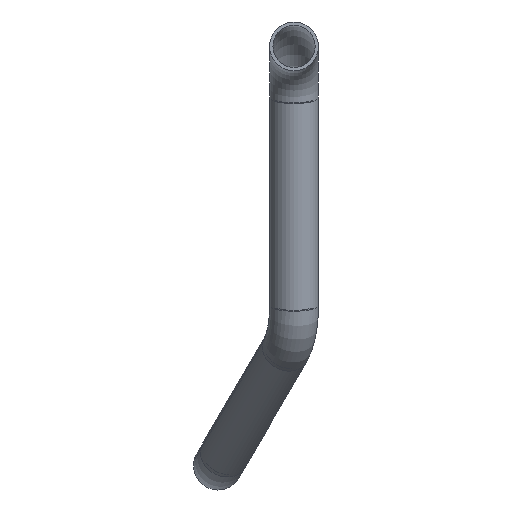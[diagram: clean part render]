
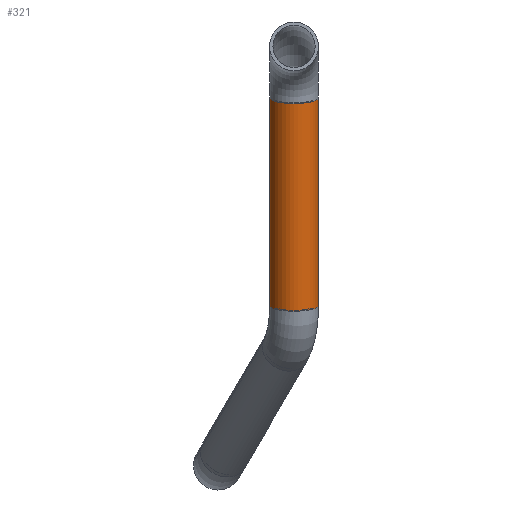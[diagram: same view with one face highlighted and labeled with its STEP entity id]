
A CAD part, left-side view. The second image highlights one B-rep face of the part: STEP entity #321.
In plain terms, the highlighted cylindrical face has radius 11 mm (diameter 22 mm), a partial arc.
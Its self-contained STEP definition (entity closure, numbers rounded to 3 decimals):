
#167=AXIS2_PLACEMENT_3D('Cylinder Axis2P3D',#164,#165,#166) ;
#300=AXIS2_PLACEMENT_3D('Circle Axis2P3D',#298,#299,$) ;
#312=AXIS2_PLACEMENT_3D('Circle Axis2P3D',#310,#311,$) ;
#142=CARTESIAN_POINT('Vertex',(-14068.811,1048.,398.265)) ;
#144=CARTESIAN_POINT('Vertex',(-14068.811,1026.,398.265)) ;
#164=CARTESIAN_POINT('Axis2P3D Location',(-14079.597,1037.,445.006)) ;
#173=CARTESIAN_POINT('Vertex',(-14090.384,1048.,491.746)) ;
#175=CARTESIAN_POINT('Vertex',(-14090.384,1026.,491.746)) ;
#178=CARTESIAN_POINT('Line Origine',(-14079.597,1026.,445.006)) ;
#183=CARTESIAN_POINT('Line Origine',(-14079.597,1048.,445.006)) ;
#298=CARTESIAN_POINT('Axis2P3D Location',(-14068.811,1037.,398.265)) ;
#310=CARTESIAN_POINT('Axis2P3D Location',(-14090.384,1037.,491.746)) ;
#165=DIRECTION('Axis2P3D Direction',(0.225,0.,-0.974)) ;
#166=DIRECTION('Axis2P3D XDirection',(0.,1.,0.)) ;
#179=DIRECTION('Vector Direction',(0.225,0.,-0.974)) ;
#184=DIRECTION('Vector Direction',(0.225,0.,-0.974)) ;
#299=DIRECTION('Axis2P3D Direction',(0.225,0.,-0.974)) ;
#311=DIRECTION('Axis2P3D Direction',(0.225,0.,-0.974)) ;
#180=VECTOR('Line Direction',#179,1.) ;
#185=VECTOR('Line Direction',#184,1.) ;
#316=ORIENTED_EDGE('',*,*,#314,.T.) ;
#317=ORIENTED_EDGE('',*,*,#187,.F.) ;
#318=ORIENTED_EDGE('',*,*,#302,.F.) ;
#319=ORIENTED_EDGE('',*,*,#182,.T.) ;
#321=ADVANCED_FACE('( + ) PartBody',(#320),#168,.T.) ;
#301=CIRCLE('generated circle',#300,11.) ;
#313=CIRCLE('generated circle',#312,11.) ;
#168=CYLINDRICAL_SURFACE('generated cylinder',#167,11.) ;
#182=EDGE_CURVE('',#145,#176,#181,.F.) ;
#187=EDGE_CURVE('',#143,#174,#186,.F.) ;
#302=EDGE_CURVE('',#145,#143,#301,.T.) ;
#314=EDGE_CURVE('',#176,#174,#313,.T.) ;
#315=EDGE_LOOP('',(#316,#317,#318,#319)) ;
#320=FACE_OUTER_BOUND('',#315,.T.) ;
#181=LINE('Line',#178,#180) ;
#186=LINE('Line',#183,#185) ;
#143=VERTEX_POINT('',#142) ;
#145=VERTEX_POINT('',#144) ;
#174=VERTEX_POINT('',#173) ;
#176=VERTEX_POINT('',#175) ;
